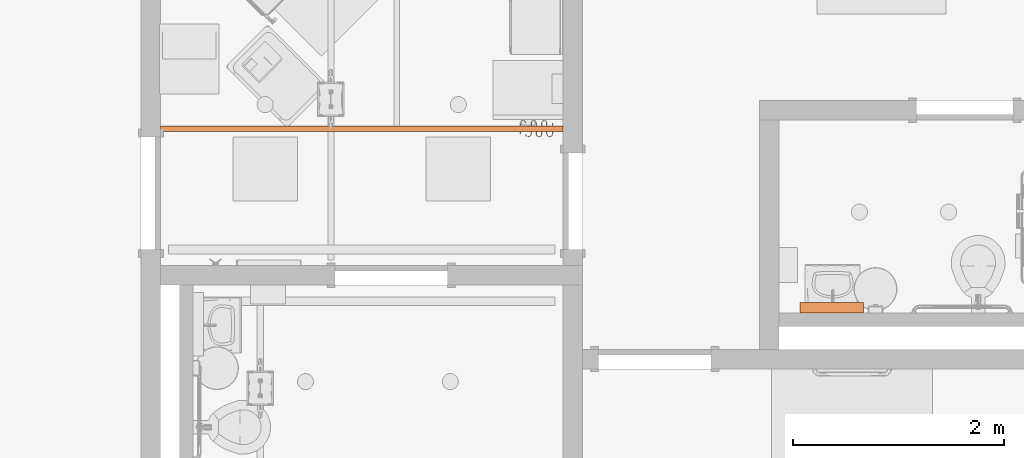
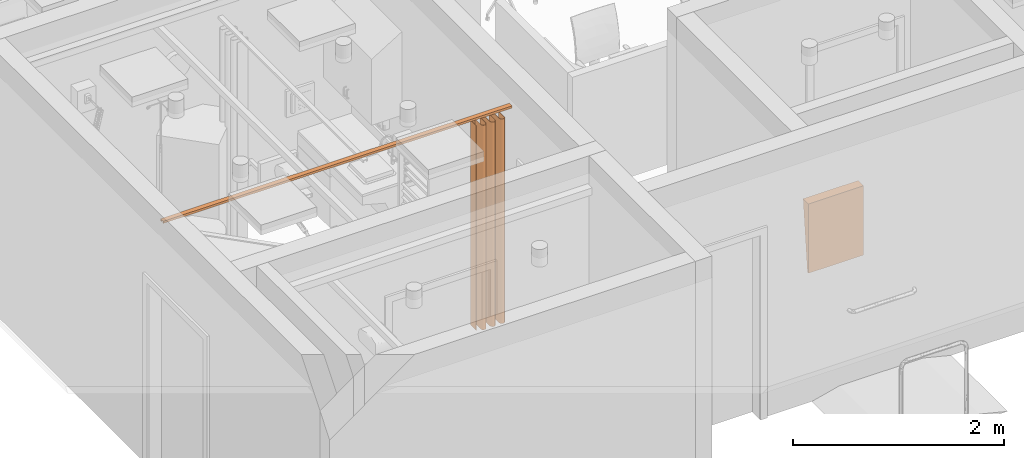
# One storey, part 9 of 142: 2 proxies.
"""IFC2X3 building model written with IfcOpenShell, lengths in feet."""

from ifc_helpers import new_model, entity, si_unit, converted_unit, derived_unit, direction, frame, frame_2d, origin, place, context, subcontext, project, spatial, polyline, circle_curve, parameter, trimmed, segment, composite_curve, outline, extrude, source, transform, mapped, type_object, type_shapes, element, save


model = new_model("IFC2X3")

# Units and contexts
model_context = context("Model", 3, precision=0.0001, world=origin(), true_north=direction((6.12303176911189e-17, 1.0)))
body_context = subcontext(model_context, "Body", "Model", "MODEL_VIEW")
ifc_project = project(units=[converted_unit("LENGTHUNIT", "FOOT", entity("IfcRatioMeasure", 0.3048), si_unit("LENGTHUNIT", "METRE"), dimensions=[1, 0, 0, 0, 0, 0, 0]), converted_unit("AREAUNIT", "SQUARE FOOT", entity("IfcRatioMeasure", 0.09290304), si_unit("AREAUNIT", "SQUARE_METRE"), dimensions=[2, 0, 0, 0, 0, 0, 0]), converted_unit("VOLUMEUNIT", "CUBIC FOOT", entity("IfcRatioMeasure", 0.028316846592), si_unit("VOLUMEUNIT", "CUBIC_METRE"), dimensions=[3, 0, 0, 0, 0, 0, 0]), converted_unit("PLANEANGLEUNIT", "DEGREE", entity("IfcRatioMeasure", 0.0174532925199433), si_unit("PLANEANGLEUNIT", "RADIAN"), dimensions=[0, 0, 0, 0, 0, 0, 0]), si_unit("MASSUNIT", "GRAM", prefix="KILO"), derived_unit("MASSDENSITYUNIT", [(si_unit("MASSUNIT", "GRAM", prefix="KILO"), 1), (si_unit("LENGTHUNIT", "METRE"), -3)]), si_unit("TIMEUNIT", "SECOND"), si_unit("FREQUENCYUNIT", "HERTZ"), si_unit("THERMODYNAMICTEMPERATUREUNIT", "DEGREE_CELSIUS"), derived_unit("THERMALTRANSMITTANCEUNIT", [(si_unit("MASSUNIT", "GRAM", prefix="KILO"), 1), (si_unit("THERMODYNAMICTEMPERATUREUNIT", "KELVIN"), -1), (si_unit("TIMEUNIT", "SECOND"), -3)]), derived_unit("VOLUMETRICFLOWRATEUNIT", [(si_unit("LENGTHUNIT", "METRE"), 3), (si_unit("TIMEUNIT", "SECOND"), -1)]), si_unit("ELECTRICCURRENTUNIT", "AMPERE"), si_unit("ELECTRICVOLTAGEUNIT", "VOLT"), si_unit("POWERUNIT", "WATT"), si_unit("FORCEUNIT", "NEWTON"), si_unit("ILLUMINANCEUNIT", "LUX"), si_unit("LUMINOUSFLUXUNIT", "LUMEN"), si_unit("LUMINOUSINTENSITYUNIT", "CANDELA"), derived_unit("USERDEFINED", [(si_unit("MASSUNIT", "GRAM", prefix="KILO"), -1), (si_unit("LENGTHUNIT", "METRE"), -2), (si_unit("TIMEUNIT", "SECOND"), 3), (si_unit("LUMINOUSFLUXUNIT", "LUMEN"), 1)]), derived_unit("LINEARVELOCITYUNIT", [(si_unit("LENGTHUNIT", "METRE"), 1), (si_unit("TIMEUNIT", "SECOND"), -1)]), si_unit("PRESSUREUNIT", "PASCAL"), derived_unit("USERDEFINED", [(si_unit("LENGTHUNIT", "METRE"), -2), (si_unit("MASSUNIT", "GRAM", prefix="KILO"), 1), (si_unit("TIMEUNIT", "SECOND"), -2)])], contexts=[model_context])

# Site, building, storey, space
site_placement = place(None, origin())
site = spatial("IfcSite", under=ifc_project, at=site_placement, Name="Default", CompositionType="ELEMENT")
building_placement = place(site_placement, origin())
building = spatial("IfcBuilding", under=site, at=building_placement, Name="OUTPATIENT / PACT CLINIC (Ch. 265)", CompositionType="ELEMENT")
storey_placement = place(building_placement, origin())
storey = spatial("IfcBuildingStorey", under=building, at=storey_placement, Name="LEVEL 1", CompositionType="ELEMENT", Elevation=0.0)
space_1_placement = place(storey_placement, origin())
space_1 = spatial("IfcSpace", under=storey, at=space_1_placement, Name="TNPG1", CompositionType="ELEMENT", InteriorOrExteriorSpace="INTERNAL")

# Proxy
building_element_proxy_type_1 = type_object("IfcBuildingElementProxyType", Name="A1067 - Mirror, Float Glass, ADA Accessible 12\"x 6\"", PredefinedType="NOTDEFINED")
shared_shape_1 = source(origin(), body_context, "Body", "SweptSolid", [
    extrude(outline(polyline([(-1.31233595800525, -0.099737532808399), (1.31233595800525, -0.099737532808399), (1.31233595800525, -0.0341207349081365), (-1.31233595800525, 0.233595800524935), (-1.31233595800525, -0.099737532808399)])), frame((0.0, 0.0997375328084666, 1.31266404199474), z_axis=(1.0, 0.0, 0.0), x_axis=(0.0, 0.0, -1.0)), (0.0, 0.0, 1.0), 1.96850393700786),
])
type_shapes(building_element_proxy_type_1, [shared_shape_1])
proxy_1_placement = place(space_1_placement, frame((410.827893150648, -947.524655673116, 3.5)))
element("IfcBuildingElementProxy", 1, at=proxy_1_placement, inside=space_1, type_object=building_element_proxy_type_1, Name="A1067 - Mirror, Float Glass, ADA Accessible:A1067 - Mirror, Float Glass, ADA Accessible 12\"x 6\"", ObjectType="A1067 - Mirror, Float Glass, ADA Accessible 12\"x 6\"", context=body_context, shape_type="MappedRepresentation", body=[
    mapped(shared_shape_1, transform((0.0, 0.0, 0.0), scale=1.0)),
])

# Space
space_2_placement = place(storey_placement, origin())
space_2 = spatial("IfcSpace", under=storey, at=space_2_placement, Name="TRPR1", CompositionType="ELEMENT", InteriorOrExteriorSpace="INTERNAL")

# Proxy
building_element_proxy_type_2 = type_object("IfcBuildingElementProxyType", Name="A5180 - Track, Cubicle, Surface Mounted, With Curtain, Straight_12'-6\"", PredefinedType="NOTDEFINED")
shared_shape_2 = source(origin(), body_context, "Body", "SweptSolid", [
    extrude(outline(composite_curve([segment(polyline([(-0.166666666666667, -0.500744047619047), (0.166666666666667, -0.500744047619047)]), True, "CONTINUOUS"), segment(polyline([(0.166666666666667, -0.500744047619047), (0.166666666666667, -0.49032738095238)]), True, "CONTINUOUS"), segment(polyline([(0.166666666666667, -0.49032738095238), (-0.166666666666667, -0.49032738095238)]), True, "CONTINUOUS"), segment(trimmed(circle_curve(frame_2d((-0.166666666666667, -0.417410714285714), x_axis=(0.0, 1.0)), 0.0729166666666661), [parameter(2.54444374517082e-13)], [parameter(180.0)], True, "PARAMETER"), False, "CONTINUOUS"), segment(polyline([(-0.166666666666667, -0.344494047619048), (0.166666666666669, -0.344494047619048)]), True, "CONTINUOUS"), segment(trimmed(circle_curve(frame_2d((0.166666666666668, -0.250744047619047), x_axis=(0.0, 1.0)), 0.0937500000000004), [parameter(180.0)], [parameter(359.999999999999)], True, "PARAMETER"), True, "CONTINUOUS"), segment(polyline([(0.166666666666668, -0.156994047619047), (-0.166666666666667, -0.156994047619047)]), True, "CONTINUOUS"), segment(trimmed(circle_curve(frame_2d((-0.166666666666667, -0.084077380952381), x_axis=(0.0, 1.0)), 0.0729166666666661), [parameter(2.54444374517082e-13)], [parameter(180.0)], True, "PARAMETER"), False, "CONTINUOUS"), segment(polyline([(-0.166666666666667, -0.0111607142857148), (0.166666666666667, -0.0111607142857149)]), True, "CONTINUOUS"), segment(trimmed(circle_curve(frame_2d((0.166666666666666, 0.0825892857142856), x_axis=(0.0, 1.0)), 0.0937500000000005), [parameter(180.0)], [parameter(360.0)], True, "PARAMETER"), True, "CONTINUOUS"), segment(polyline([(0.166666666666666, 0.176339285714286), (-0.166666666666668, 0.176339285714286)]), True, "CONTINUOUS"), segment(trimmed(circle_curve(frame_2d((-0.166666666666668, 0.249255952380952), x_axis=(0.0, 1.0)), 0.072916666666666), [parameter(2.54444374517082e-13)], [parameter(180.0)], True, "PARAMETER"), False, "CONTINUOUS"), segment(polyline([(-0.166666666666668, 0.322172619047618), (0.166666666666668, 0.322172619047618)]), True, "CONTINUOUS"), segment(trimmed(circle_curve(frame_2d((0.166666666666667, 0.415922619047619), x_axis=(0.0, 1.0)), 0.0937500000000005), [parameter(180.0)], [parameter(360.0)], True, "PARAMETER"), True, "CONTINUOUS"), segment(polyline([(0.166666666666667, 0.509672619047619), (-0.166666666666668, 0.509672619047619)]), True, "CONTINUOUS"), segment(polyline([(-0.166666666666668, 0.509672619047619), (-0.166666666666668, 0.499255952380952)]), True, "CONTINUOUS"), segment(polyline([(-0.166666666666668, 0.499255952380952), (0.166666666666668, 0.499255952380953)]), True, "CONTINUOUS"), segment(trimmed(circle_curve(frame_2d((0.166666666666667, 0.415922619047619), x_axis=(0.0, 1.0)), 0.0833333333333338), [parameter(180.0)], [parameter(360.0)], True, "PARAMETER"), False, "CONTINUOUS"), segment(polyline([(0.166666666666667, 0.332589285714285), (-0.166666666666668, 0.332589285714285)]), True, "CONTINUOUS"), segment(trimmed(circle_curve(frame_2d((-0.166666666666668, 0.249255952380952), x_axis=(0.0, 1.0)), 0.0833333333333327), [parameter(360.0)], [parameter(180.0)], True, "PARAMETER"), True, "CONTINUOUS"), segment(polyline([(-0.166666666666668, 0.165922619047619), (0.166666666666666, 0.165922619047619)]), True, "CONTINUOUS"), segment(trimmed(circle_curve(frame_2d((0.166666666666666, 0.0825892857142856), x_axis=(0.0, 1.0)), 0.0833333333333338), [parameter(180.0)], [parameter(2.54444374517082e-13)], True, "PARAMETER"), False, "CONTINUOUS"), segment(polyline([(0.166666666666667, -0.000744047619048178), (-0.166666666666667, -0.000744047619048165)]), True, "CONTINUOUS"), segment(trimmed(circle_curve(frame_2d((-0.166666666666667, -0.084077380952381), x_axis=(0.0, 1.0)), 0.0833333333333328), [parameter(360.0)], [parameter(180.0)], True, "PARAMETER"), True, "CONTINUOUS"), segment(polyline([(-0.166666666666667, -0.167410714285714), (0.166666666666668, -0.167410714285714)]), True, "CONTINUOUS"), segment(trimmed(circle_curve(frame_2d((0.166666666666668, -0.250744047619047), x_axis=(0.0, 1.0)), 0.0833333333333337), [parameter(180.0)], [parameter(360.0)], True, "PARAMETER"), False, "CONTINUOUS"), segment(polyline([(0.166666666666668, -0.334077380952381), (-0.166666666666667, -0.334077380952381)]), True, "CONTINUOUS"), segment(trimmed(circle_curve(frame_2d((-0.166666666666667, -0.417410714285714), x_axis=(0.0, 1.0)), 0.0833333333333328), [parameter(360.0)], [parameter(180.0)], True, "PARAMETER"), True, "CONTINUOUS")], self_intersect=False)), frame((0.506771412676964, 0.0104166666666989, 1.0), z_axis=(0.0, 0.0, 1.0), x_axis=(0.0, -1.0, 0.0)), (0.0, 0.0, 1.0), 7.7499999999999),
    extrude(outline(polyline([(-0.0520833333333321, -0.0833333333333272), (0.03125, -0.0833333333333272), (0.03125, -0.0416666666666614), (0.0104166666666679, -0.0416666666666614), (0.0104166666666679, -0.0624999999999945), (-0.03125, -0.0624999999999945), (-0.03125, 0.0625000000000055), (0.0104166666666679, 0.0625000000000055), (0.0104166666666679, 0.0416666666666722), (0.03125, 0.0416666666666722), (0.03125, 0.0833333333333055), (-0.0520833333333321, 0.0833333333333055), (-0.0520833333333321, -0.0833333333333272)])), frame((-11.1666666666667, 0.0, 8.94791666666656), z_axis=(1.0, 0.0, 0.0), x_axis=(0.0, 0.0, -1.0)), (0.0, 0.0, 1.0), 12.5),
])
type_shapes(building_element_proxy_type_2, [shared_shape_2])
proxy_2_placement = place(space_2_placement, frame((402.129976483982, -941.795518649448, 0.0)))
element("IfcBuildingElementProxy", 2, at=proxy_2_placement, inside=space_2, type_object=building_element_proxy_type_2, Name="A5180 - Track, Cubicle, Surface Mounted, With Curtain, Straight_12'-6\":A5180 - Track, Cubicle, Surface Mounted, With Curtain, Straight_12'-6\"", ObjectType="A5180 - Track, Cubicle, Surface Mounted, With Curtain, Straight_12'-6\"", context=body_context, shape_type="MappedRepresentation", body=[
    mapped(shared_shape_2, transform((0.0, 0.0, 0.0), scale=1.0)),
])

save(model, "model.ifc")
